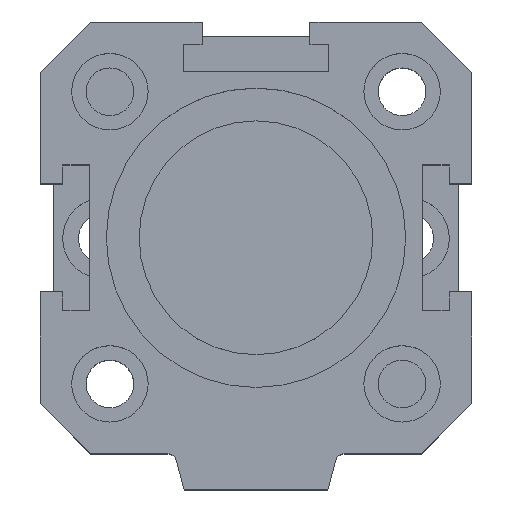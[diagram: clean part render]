
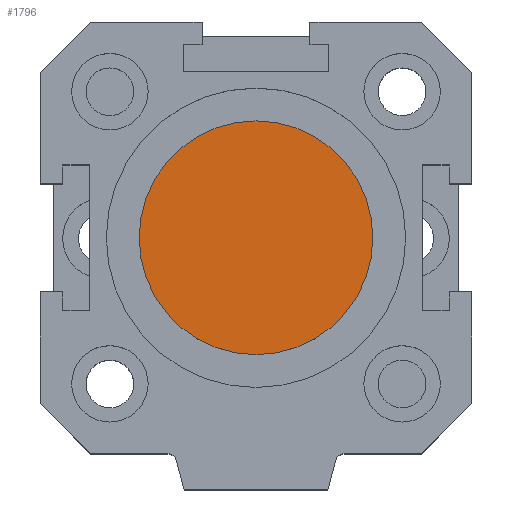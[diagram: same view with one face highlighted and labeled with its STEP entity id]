
A CAD part, top view. The second image highlights one B-rep face of the part: STEP entity #1796.
In plain terms, the highlighted planar face has unit normal (0, 0, 1).
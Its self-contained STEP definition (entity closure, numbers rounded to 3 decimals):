
#373=PLANE('',#1961);
#550=FACE_OUTER_BOUND('',#705,.T.);
#705=EDGE_LOOP('',(#1437));
#814=CIRCLE('',#1881,13.);
#890=VERTEX_POINT('',#2609);
#1060=EDGE_CURVE('',#890,#890,#814,.T.);
#1437=ORIENTED_EDGE('',*,*,#1060,.T.);
#1796=ADVANCED_FACE('',(#550),#373,.T.);
#1881=AXIS2_PLACEMENT_3D('',#2610,#2083,#2084);
#1961=AXIS2_PLACEMENT_3D('',#2876,#2315,#2316);
#2083=DIRECTION('center_axis',(0.,0.,1.));
#2084=DIRECTION('ref_axis',(-1.,0.,0.));
#2315=DIRECTION('center_axis',(0.,0.,1.));
#2316=DIRECTION('ref_axis',(1.,0.,0.));
#2609=CARTESIAN_POINT('',(13.,0.,16.));
#2610=CARTESIAN_POINT('Origin',(0.,0.,16.));
#2876=CARTESIAN_POINT('Origin',(0.,0.555,
16.));
